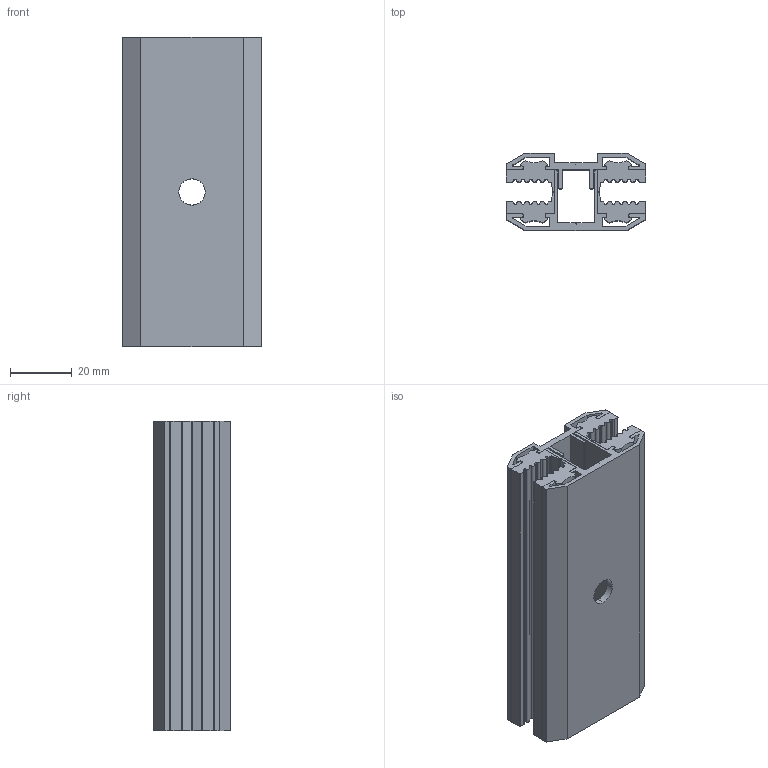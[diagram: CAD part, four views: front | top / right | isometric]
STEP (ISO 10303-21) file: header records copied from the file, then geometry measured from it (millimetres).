
FILE_DESCRIPTION (( 'STEP AP203' ), '1' );
FILE_NAME ('084.106.146.STEP', '2013-01-23T13:17:53', ( 'Alusic' ), ( 'Alusic' ), 'SwSTEP 2.0', 'SolidWorks 2011', '' );
FILE_SCHEMA (( 'CONFIG_CONTROL_DESIGN' ));
Length unit declared in the file: millimetre
Products named in the file (4): 084.106.008; 084.106.147; 084.106.146; 084.106.007
Assembly tree (6 placements, depth 2):
  084.106.146
    084.106.147  x4
    084.106.008
    084.106.007
Bounding box: 45 x 24.8 x 100 mm (x, y, z)
Volume: 55794.4 mm3; surface area: 57955.9 mm2
Topology: 6 solids, 6 shells, 334 faces, 968 edges, 644 vertices
Faces by surface type: plane 198, cylinder 136
Entity records: 6594 total; most frequent: CARTESIAN_POINT 1109, ORIENTED_EDGE 1072, DIRECTION 1042, EDGE_CURVE 536, VECTOR 400, LINE 400, VERTEX_POINT 356, AXIS2_PLACEMENT_3D 321
